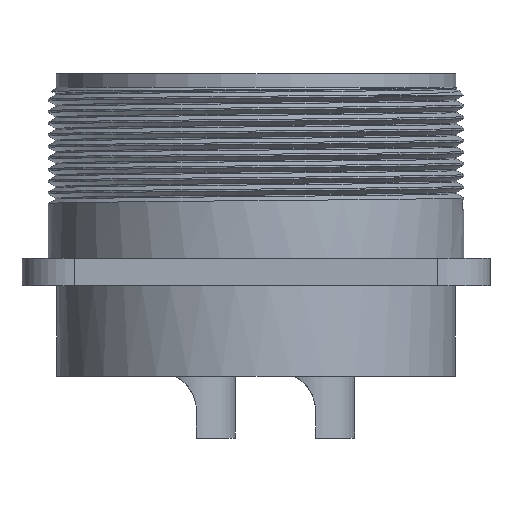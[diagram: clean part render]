
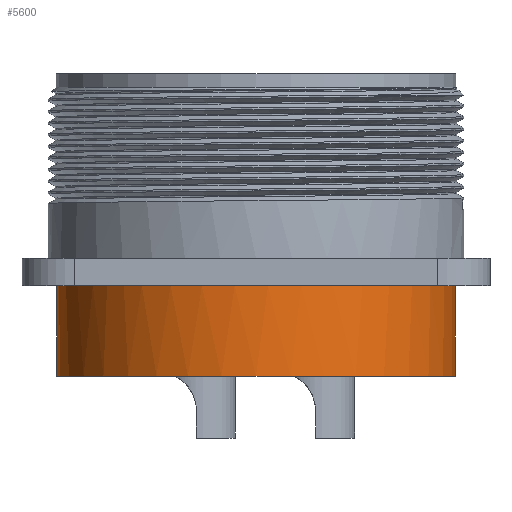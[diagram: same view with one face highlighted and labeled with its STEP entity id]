
A CAD part, front view. The second image highlights one B-rep face of the part: STEP entity #5600.
In plain terms, the highlighted cylindrical face has radius 24.21 mm (diameter 48.42 mm), a partial arc.
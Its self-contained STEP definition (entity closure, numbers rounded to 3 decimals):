
#18 = EDGE_CURVE ( 'NONE', #23448, #3027, #16332, .T. ) ;
#213 = CARTESIAN_POINT ( 'NONE',  ( 0., 0., 24.16 ) ) ;
#304 = CARTESIAN_POINT ( 'NONE',  ( -13.886, -19.832, -2.75 ) ) ;
#416 = CARTESIAN_POINT ( 'NONE',  ( 0., 0., -2.75 ) ) ;
#516 = EDGE_LOOP ( 'NONE', ( #2938, #6370, #17334, #22731, #25068, #21213, #7020, #23664 ) ) ;
#1461 = DIRECTION ( 'NONE',  ( 0., 0., -1. ) ) ;
#1612 = VERTEX_POINT ( 'NONE', #19703 ) ;
#1766 = VERTEX_POINT ( 'NONE', #5387 ) ;
#1839 = AXIS2_PLACEMENT_3D ( 'NONE', #10040, #17766, #17747 ) ;
#2193 = VECTOR ( 'NONE', #18048, 1000. ) ;
#2368 = DIRECTION ( 'NONE',  ( 1., 0., 0. ) ) ;
#2694 = DIRECTION ( 'NONE',  ( 0., 0., 1. ) ) ;
#2758 = EDGE_CURVE ( 'NONE', #3027, #1766, #15355, .T. ) ;
#2938 = ORIENTED_EDGE ( 'NONE', *, *, #22927, .F. ) ;
#3027 = VERTEX_POINT ( 'NONE', #8085 ) ;
#3249 = DIRECTION ( 'NONE',  ( 0., 0., 1. ) ) ;
#3988 = EDGE_CURVE ( 'NONE', #1612, #9749, #12654, .T. ) ;
#4294 = VECTOR ( 'NONE', #1461, 1000. ) ;
#5156 = VECTOR ( 'NONE', #23904, 1000. ) ;
#5387 = CARTESIAN_POINT ( 'NONE',  ( 24.21, 0., -3.35 ) ) ;
#5527 = LINE ( 'NONE', #12758, #15135 ) ;
#5600 = ADVANCED_FACE ( 'NONE', ( #13452 ), #12882, .T. ) ;
#6122 = DIRECTION ( 'NONE',  ( 1., 0., 0. ) ) ;
#6289 = CARTESIAN_POINT ( 'NONE',  ( 0., 0., -3.35 ) ) ;
#6370 = ORIENTED_EDGE ( 'NONE', *, *, #18, .T. ) ;
#7020 = ORIENTED_EDGE ( 'NONE', *, *, #23640, .T. ) ;
#7486 = VERTEX_POINT ( 'NONE', #8671 ) ;
#8085 = CARTESIAN_POINT ( 'NONE',  ( 24.21, 0., -14.35 ) ) ;
#8257 = DIRECTION ( 'NONE',  ( 1., 0., 0. ) ) ;
#8671 = CARTESIAN_POINT ( 'NONE',  ( -13.886, -19.832, -3.35 ) ) ;
#9749 = VERTEX_POINT ( 'NONE', #10505 ) ;
#10040 = CARTESIAN_POINT ( 'NONE',  ( 0., 0., -14.35 ) ) ;
#10505 = CARTESIAN_POINT ( 'NONE',  ( -19.832, -13.886, -3.35 ) ) ;
#10751 = CARTESIAN_POINT ( 'NONE',  ( -19.832, -13.886, -2.75 ) ) ;
#12654 = CIRCLE ( 'NONE', #21110, 24.21 ) ;
#12758 = CARTESIAN_POINT ( 'NONE',  ( -24.21, 0., 24.16 ) ) ;
#12882 = CYLINDRICAL_SURFACE ( 'NONE', #19949, 24.21 ) ;
#13256 = EDGE_CURVE ( 'NONE', #15188, #19116, #14345, .T. ) ;
#13452 = FACE_OUTER_BOUND ( 'NONE', #516, .T. ) ;
#13762 = EDGE_CURVE ( 'NONE', #7486, #1766, #16129, .T. ) ;
#13865 = DIRECTION ( 'NONE',  ( 0., 0., -1. ) ) ;
#14188 = CARTESIAN_POINT ( 'NONE',  ( 0., 0., -3.35 ) ) ;
#14191 = CARTESIAN_POINT ( 'NONE',  ( -24.21, 0., -14.35 ) ) ;
#14345 = CIRCLE ( 'NONE', #19036, 24.21 ) ;
#14521 = LINE ( 'NONE', #14925, #4294 ) ;
#14925 = CARTESIAN_POINT ( 'NONE',  ( -19.832, -13.886, -2.75 ) ) ;
#15135 = VECTOR ( 'NONE', #3249, 1000. ) ;
#15188 = VERTEX_POINT ( 'NONE', #304 ) ;
#15355 = LINE ( 'NONE', #21944, #5156 ) ;
#15781 = DIRECTION ( 'NONE',  ( 0., 0., 1. ) ) ;
#16119 = DIRECTION ( 'NONE',  ( 1., 0., 0. ) ) ;
#16129 = CIRCLE ( 'NONE', #16786, 24.21 ) ;
#16332 = CIRCLE ( 'NONE', #1839, 24.21 ) ;
#16786 = AXIS2_PLACEMENT_3D ( 'NONE', #6289, #19763, #8257 ) ;
#17334 = ORIENTED_EDGE ( 'NONE', *, *, #2758, .T. ) ;
#17516 = LINE ( 'NONE', #21916, #2193 ) ;
#17747 = DIRECTION ( 'NONE',  ( 1., 0., 0. ) ) ;
#17766 = DIRECTION ( 'NONE',  ( 0., 0., 1. ) ) ;
#18048 = DIRECTION ( 'NONE',  ( 0., 0., 1. ) ) ;
#19036 = AXIS2_PLACEMENT_3D ( 'NONE', #416, #13865, #2368 ) ;
#19116 = VERTEX_POINT ( 'NONE', #10751 ) ;
#19703 = CARTESIAN_POINT ( 'NONE',  ( -24.21, 0., -3.35 ) ) ;
#19763 = DIRECTION ( 'NONE',  ( 0., 0., 1. ) ) ;
#19949 = AXIS2_PLACEMENT_3D ( 'NONE', #213, #15781, #6122 ) ;
#21110 = AXIS2_PLACEMENT_3D ( 'NONE', #14188, #2694, #16119 ) ;
#21213 = ORIENTED_EDGE ( 'NONE', *, *, #13256, .T. ) ;
#21916 = CARTESIAN_POINT ( 'NONE',  ( -13.886, -19.832, 24.16 ) ) ;
#21944 = CARTESIAN_POINT ( 'NONE',  ( 24.21, 0., 24.16 ) ) ;
#22731 = ORIENTED_EDGE ( 'NONE', *, *, #13762, .F. ) ;
#22927 = EDGE_CURVE ( 'NONE', #23448, #1612, #5527, .T. ) ;
#23448 = VERTEX_POINT ( 'NONE', #14191 ) ;
#23463 = EDGE_CURVE ( 'NONE', #7486, #15188, #17516, .T. ) ;
#23640 = EDGE_CURVE ( 'NONE', #19116, #9749, #14521, .T. ) ;
#23664 = ORIENTED_EDGE ( 'NONE', *, *, #3988, .F. ) ;
#23904 = DIRECTION ( 'NONE',  ( 0., 0., 1. ) ) ;
#25068 = ORIENTED_EDGE ( 'NONE', *, *, #23463, .T. ) ;
